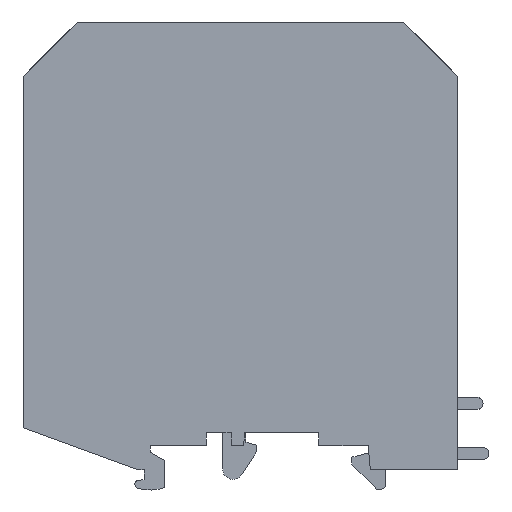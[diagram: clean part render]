
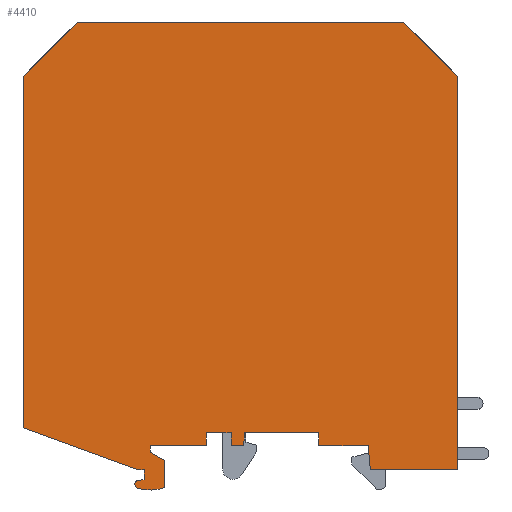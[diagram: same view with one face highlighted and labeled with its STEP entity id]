
A CAD part, left-side view. The second image highlights one B-rep face of the part: STEP entity #4410.
In plain terms, the highlighted planar face has unit normal (-1, 0, 0) as drawn and (0, 0, -1) by its records, which use the part's own axes.
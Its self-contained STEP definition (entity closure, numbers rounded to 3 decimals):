
#2270=CARTESIAN_POINT('',(59.402,-63.9,-24.9));
#2280=DIRECTION('',(0.,0.,-1.));
#2290=DIRECTION('',(1.,0.,0.));
#2300=AXIS2_PLACEMENT_3D('',#2270,#2280,#2290);
#2310=PLANE('',#2300);
#2320=CARTESIAN_POINT('',(-10.,0.,-24.9))
;
#2330=DIRECTION('',(0.,1.,0.));
#2340=VECTOR('',#2330,1.);
#2350=LINE('',#2320,#2340);
#2360=CARTESIAN_POINT('',(-10.,-83.4,-24.9));
#2370=VERTEX_POINT('',#2360);
#2380=CARTESIAN_POINT('',(-10.,-19.7,-24.9));
#2390=VERTEX_POINT('',#2380);
#2400=EDGE_CURVE('',#2370,#2390,#2350,.T.);
#2410=ORIENTED_EDGE('',*,*,#2400,.T.);
#2420=CARTESIAN_POINT('',(0.,-83.4,-24.9));
#2430=DIRECTION('',(1.,0.,0.));
#2440=VECTOR('',#2430,1.);
#2450=LINE('',#2420,#2440);
#2460=CARTESIAN_POINT('',(4.159,-83.4,-24.9));
#2470=VERTEX_POINT('',#2460);
#2480=EDGE_CURVE('',#2370,#2470,#2450,.T.);
#2490=ORIENTED_EDGE('',*,*,#2480,.F.);
#2500=CARTESIAN_POINT('',(11.455,0.,-24.9));
#2510=DIRECTION('',(0.087,0.996,
0.));
#2520=VECTOR('',#2510,1.);
#2530=LINE('',#2500,#2520);
#2540=CARTESIAN_POINT('',(4.5,-79.5,-24.9));
#2550=VERTEX_POINT('',#2540);
#2560=EDGE_CURVE('',#2470,#2550,#2530,.T.);
#2570=ORIENTED_EDGE('',*,*,#2560,.F.);
#2580=CARTESIAN_POINT('',(0.,-79.5,-24.9));
#2590=DIRECTION('',(1.,0.,0.));
#2600=VECTOR('',#2590,1.);
#2610=LINE('',#2580,#2600);
#2620=CARTESIAN_POINT('',(12.5,-79.5,-24.9));
#2630=VERTEX_POINT('',#2620);
#2640=EDGE_CURVE('',#2550,#2630,#2610,.T.);
#2650=ORIENTED_EDGE('',*,*,#2640,.F.);
#2660=CARTESIAN_POINT('',(12.5,0.,-24.9));
#2670=DIRECTION('',(0.,1.,0.));
#2680=VECTOR('',#2670,1.);
#2690=LINE('',#2660,#2680);
#2700=CARTESIAN_POINT('',(12.5,-77.4,-24.9));
#2710=VERTEX_POINT('',#2700);
#2720=EDGE_CURVE('',#2630,#2710,#2690,.T.);
#2730=ORIENTED_EDGE('',*,*,#2720,.F.);
#2740=CARTESIAN_POINT('',(0.,-77.4,-24.9))
;
#2750=DIRECTION('',(1.,0.,0.));
#2760=VECTOR('',#2750,1.);
#2770=LINE('',#2740,#2760);
#2780=CARTESIAN_POINT('',(24.5,-77.4,-24.9));
#2790=VERTEX_POINT('',#2780);
#2800=EDGE_CURVE('',#2710,#2790,#2770,.T.);
#2810=ORIENTED_EDGE('',*,*,#2800,.F.);
#2820=CARTESIAN_POINT('',(17.728,0.,-24.9));
#2830=DIRECTION('',(0.087,-0.996,
0.));
#2840=VECTOR('',#2830,1.);
#2850=LINE('',#2820,#2840);
#2860=CARTESIAN_POINT('',(24.684,-79.5,-24.9));
#2870=VERTEX_POINT('',#2860);
#2880=EDGE_CURVE('',#2790,#2870,#2850,.T.);
#2890=ORIENTED_EDGE('',*,*,#2880,.F.);
#2900=CARTESIAN_POINT('',(0.,-79.5,-24.9));
#2910=DIRECTION('',(1.,0.,0.));
#2920=VECTOR('',#2910,1.);
#2930=LINE('',#2900,#2920);
#2940=CARTESIAN_POINT('',(26.7,-79.5,-24.9));
#2950=VERTEX_POINT('',#2940);
#2960=EDGE_CURVE('',#2870,#2950,#2930,.T.);
#2970=ORIENTED_EDGE('',*,*,#2960,.F.);
#2980=CARTESIAN_POINT('',(26.7,0.,-24.9));
#2990=DIRECTION('',(0.,1.,0.));
#3000=VECTOR('',#2990,1.);
#3010=LINE('',#2980,#3000);
#3020=CARTESIAN_POINT('',(26.7,-77.4,-24.9));
#3030=VERTEX_POINT('',#3020);
#3040=EDGE_CURVE('',#2950,#3030,#3010,.T.);
#3050=ORIENTED_EDGE('',*,*,#3040,.F.);
#3060=CARTESIAN_POINT('',(30.7,-77.4,-24.9));
#3070=VERTEX_POINT('',#3060);
#3080=EDGE_CURVE('',#3030,#3070,#2770,.T.);
#3090=ORIENTED_EDGE('',*,*,#3080,.F.);
#3100=CARTESIAN_POINT('',(30.7,0.,-24.9));
#3110=DIRECTION('',(0.,-1.,0.));
#3120=VECTOR('',#3110,1.);
#3130=LINE('',#3100,#3120);
#3140=CARTESIAN_POINT('',(30.7,-79.5,-24.9));
#3150=VERTEX_POINT('',#3140);
#3160=EDGE_CURVE('',#3070,#3150,#3130,.T.);
#3170=ORIENTED_EDGE('',*,*,#3160,.F.);
#3180=CARTESIAN_POINT('',(0.,-79.5,-24.9));
#3190=DIRECTION('',(1.,0.,0.));
#3200=VECTOR('',#3190,1.);
#3210=LINE('',#3180,#3200);
#3220=CARTESIAN_POINT('',(39.8,-79.5,-24.9));
#3230=VERTEX_POINT('',#3220);
#3240=EDGE_CURVE('',#3150,#3230,#3210,.T.);
#3250=ORIENTED_EDGE('',*,*,#3240,.F.);
#3260=CARTESIAN_POINT('',(39.8,0.,-24.9));
#3270=DIRECTION('',(0.,-1.,0.));
#3280=VECTOR('',#3270,1.);
#3290=LINE('',#3260,#3280);
#3300=CARTESIAN_POINT('',(39.8,-80.6,-24.9));
#3310=VERTEX_POINT('',#3300);
#3320=EDGE_CURVE('',#3230,#3310,#3290,.T.);
#3330=ORIENTED_EDGE('',*,*,#3320,.F.);
#3340=CARTESIAN_POINT('',(0.,-103.579,-24.9)
);
#3350=DIRECTION('',(-0.866,-0.5,0.));
#3360=VECTOR('',#3350,1.);
#3370=LINE('',#3340,#3360);
#3380=CARTESIAN_POINT('',(37.5,-81.928,-24.9));
#3390=VERTEX_POINT('',#3380);
#3400=EDGE_CURVE('',#3310,#3390,#3370,.T.);
#3410=ORIENTED_EDGE('',*,*,#3400,.F.);
#3420=CARTESIAN_POINT('',(37.5,0.,-24.9));
#3430=DIRECTION('',(0.,-1.,0.));
#3440=VECTOR('',#3430,1.);
#3450=LINE('',#3420,#3440);
#3460=CARTESIAN_POINT('',(37.5,-86.323,-24.9));
#3470=VERTEX_POINT('',#3460);
#3480=EDGE_CURVE('',#3390,#3470,#3450,.T.);
#3490=ORIENTED_EDGE('',*,*,#3480,.F.);
#3500=CARTESIAN_POINT('',(39.8,-79.5,-24.9));
#3510=DIRECTION('',(0.,0.,-1.));
#3520=DIRECTION('',(-1.,0.,0.));
#3530=AXIS2_PLACEMENT_3D('',#3500,#3510,#3520);
#3540=CIRCLE('',#3530,7.2);
#3550=CARTESIAN_POINT('',(41.753,-86.43,-24.9));
#3560=VERTEX_POINT('',#3550);
#3570=EDGE_CURVE('',#3560,#3470,#3540,.T.);
#3580=ORIENTED_EDGE('',*,*,#3570,.T.);
#3590=CARTESIAN_POINT('',(41.55,-85.708,-24.9));
#3600=DIRECTION('',(0.,0.,-1.));
#3610=DIRECTION('',(-1.,0.,0.));
#3620=AXIS2_PLACEMENT_3D('',#3590,#3600,#3610);
#3630=CIRCLE('',#3620,0.75);
#3640=CARTESIAN_POINT('',(42.3,-85.708,-24.9));
#3650=VERTEX_POINT('',#3640);
#3660=EDGE_CURVE('',#3650,#3560,#3630,.T.);
#3670=ORIENTED_EDGE('',*,*,#3660,.T.);
#3680=CARTESIAN_POINT('',(41.772,-85.708,-24.9));
#3690=DIRECTION('',(0.,0.,1.));
#3700=DIRECTION('',(1.,0.,0.));
#3710=AXIS2_PLACEMENT_3D('',#3680,#3690,#3700);
#3720=CIRCLE('',#3710,0.528);
#3730=CARTESIAN_POINT('',(41.864,-85.188,-24.9));
#3740=VERTEX_POINT('',#3730);
#3750=EDGE_CURVE('',#3650,#3740,#3720,.T.);
#3760=ORIENTED_EDGE('',*,*,#3750,.F.);
#3770=CARTESIAN_POINT('',(0.,-77.806,-24.9)
);
#3780=DIRECTION('',(-0.985,0.174,
0.));
#3790=VECTOR('',#3780,1.);
#3800=LINE('',#3770,#3790);
#3810=CARTESIAN_POINT('',(40.8,-85.,-24.9));
#3820=VERTEX_POINT('',#3810);
#3830=EDGE_CURVE('',#3740,#3820,#3800,.T.);
#3840=ORIENTED_EDGE('',*,*,#3830,.F.);
#3850=CARTESIAN_POINT('',(40.8,0.,-24.9));
#3860=DIRECTION('',(0.,1.,0.));
#3870=VECTOR('',#3860,1.);
#3880=LINE('',#3850,#3870);
#3890=CARTESIAN_POINT('',(40.8,-83.4,-24.9));
#3900=VERTEX_POINT('',#3890);
#3910=EDGE_CURVE('',#3820,#3900,#3880,.T.);
#3920=ORIENTED_EDGE('',*,*,#3910,.F.);
#3930=CARTESIAN_POINT('',(0.,-83.4,-24.9));
#3940=DIRECTION('',(1.,0.,0.));
#3950=VECTOR('',#3940,1.);
#3960=LINE('',#3930,#3950);
#3970=CARTESIAN_POINT('',(41.8,-83.4,-24.9));
#3980=VERTEX_POINT('',#3970);
#3990=EDGE_CURVE('',#3900,#3980,#3960,.T.);
#4000=ORIENTED_EDGE('',*,*,#3990,.F.);
#4010=CARTESIAN_POINT('',(0.,-98.614,-24.9))
;
#4020=DIRECTION('',(0.94,0.342,
0.));
#4030=VECTOR('',#4020,1.);
#4040=LINE('',#4010,#4030);
#4050=CARTESIAN_POINT('',(60.4,-76.63,-24.9));
#4060=VERTEX_POINT('',#4050);
#4070=EDGE_CURVE('',#3980,#4060,#4040,.T.);
#4080=ORIENTED_EDGE('',*,*,#4070,.F.);
#4090=CARTESIAN_POINT('',(60.4,0.,-24.9));
#4100=DIRECTION('',(0.,-1.,0.));
#4110=VECTOR('',#4100,1.);
#4120=LINE('',#4090,#4110);
#4130=CARTESIAN_POINT('',(60.4,-19.7,-24.9));
#4140=VERTEX_POINT('',#4130);
#4150=EDGE_CURVE('',#4140,#4060,#4120,.T.);
#4160=ORIENTED_EDGE('',*,*,#4150,.T.);
#4170=CARTESIAN_POINT('',(40.7,0.,-24.9));
#4180=DIRECTION('',(-0.707,0.707,
0.));
#4190=VECTOR('',#4180,1.);
#4200=LINE('',#4170,#4190);
#4210=CARTESIAN_POINT('',(51.6,-10.9,-24.9));
#4220=VERTEX_POINT('',#4210);
#4230=EDGE_CURVE('',#4140,#4220,#4200,.T.);
#4240=ORIENTED_EDGE('',*,*,#4230,.F.);
#4250=CARTESIAN_POINT('',(0.,-10.9,-24.9));
#4260=DIRECTION('',(-1.,0.,0.));
#4270=VECTOR('',#4260,1.);
#4280=LINE('',#4250,#4270);
#4290=CARTESIAN_POINT('',(-1.2,-10.9,-24.9));
#4300=VERTEX_POINT('',#4290);
#4310=EDGE_CURVE('',#4220,#4300,#4280,.T.);
#4320=ORIENTED_EDGE('',*,*,#4310,.F.);
#4330=CARTESIAN_POINT('',(0.,-9.7,-24.9));
#4340=DIRECTION('',(-0.707,-0.707,
0.));
#4350=VECTOR('',#4340,1.);
#4360=LINE('',#4330,#4350);
#4370=EDGE_CURVE('',#4300,#2390,#4360,.T.);
#4380=ORIENTED_EDGE('',*,*,#4370,.F.);
#4390=EDGE_LOOP('',(#4380,#4320,#4240,#4160,#4080,#4000,#3920,#3840,
#3760,#3670,#3580,#3490,#3410,#3330,#3250,#3170,#3090,#3050,#2970,#2890,
#2810,#2730,#2650,#2570,#2490,#2410));
#4400=FACE_OUTER_BOUND('',#4390,.T.);
#4410=ADVANCED_FACE('',(#4400),#2310,.T.);
